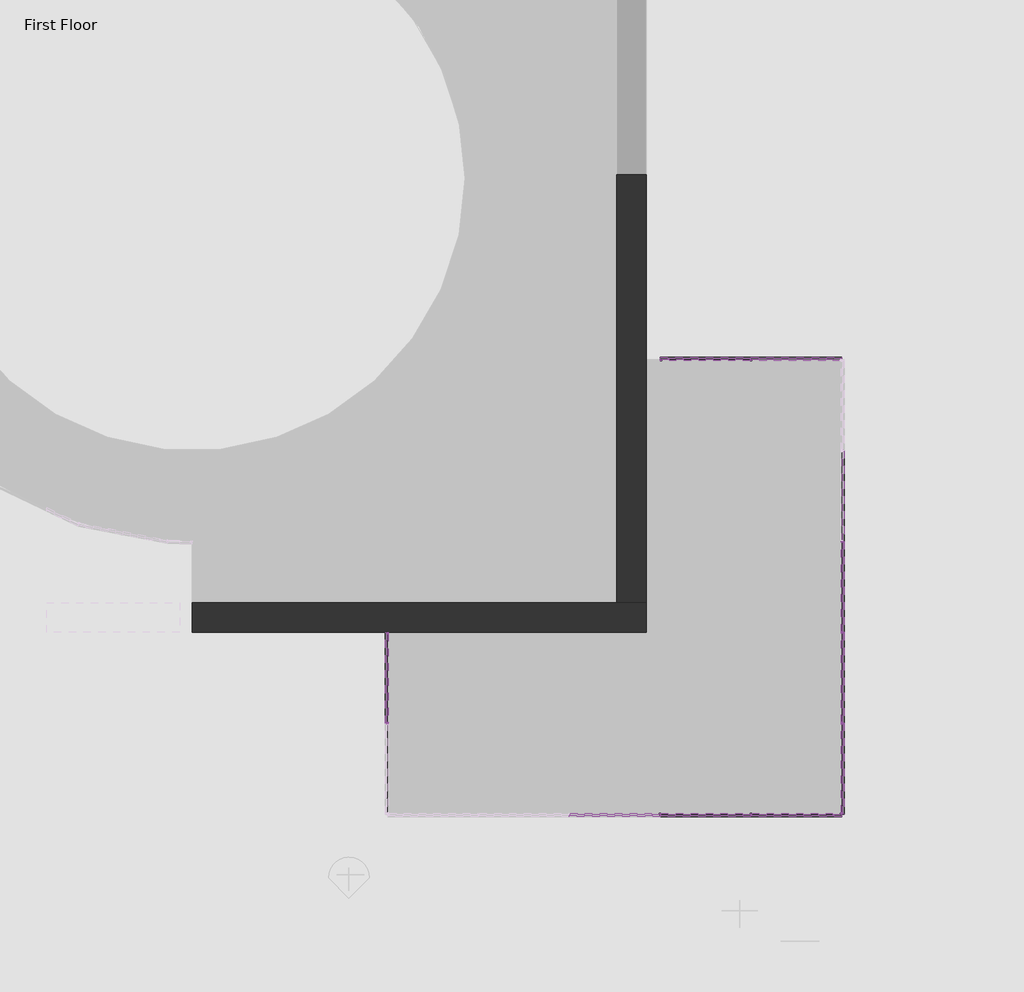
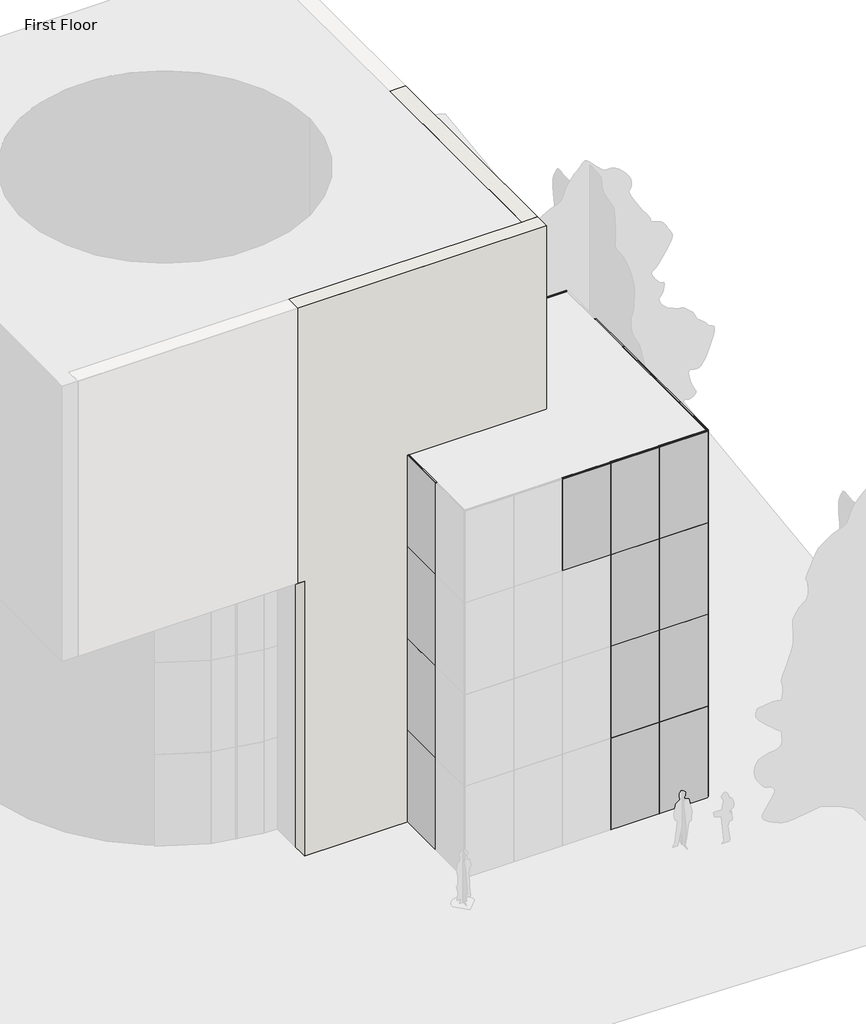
# One storey, part 2 of 4: 93 members, 37 plates, 2 walls.
"""IFC4 building model written with IfcOpenShell, lengths in millimetres."""

from ifc_helpers import new_model, si_unit, origin, origin_with_axes, place, context, project, spatial, polyline, outline, extrude, faceted_brep, transform, mapped, element, save
from components import member_6604d1e0, member_9fd3d903, member_5e617a80, member_cbdb9076, member_74941792, member_7e523723, system_panel_glazed_9c75bc08

model = new_model("IFC4")

# Units and contexts
model_context = context("Model", 3, world=origin())
ifc_project = project(units=[si_unit("LENGTHUNIT", "METRE", prefix="MILLI")], contexts=[model_context])

# Site, building, storey
site = spatial("IfcSite", under=ifc_project)
building = spatial("IfcBuilding", under=site)
storey = spatial("IfcBuildingStorey", under=building, Name="First Floor", Elevation=0.0)

# Members
placement = place(None, origin())
member_shape = member_6604d1e0(model_context)
element("IfcMember", 1, ObjectType="Rectangular Mullion : 1\" Square", at=placement, inside=storey, context=model_context, shape_type="MappedRepresentation", body=[
    mapped(member_shape, transform((5168.1240488, -13277.6534489, 0.0), x_axis=(0.0, 0.0, -1.0), y_axis=(0.0, -1.0, 0.0), z_axis=(-1.0, 0.0, 0.0))),
])
element("IfcMember", 2, ObjectType="Rectangular Mullion : 1\" Square", at=placement, inside=storey, context=model_context, shape_type="MappedRepresentation", body=[
    mapped(member_shape, transform((8203.4240488, -10216.9534489, 0.0), x_axis=(0.0, 0.0, -1.0), y_axis=(1.0, 0.0, 0.0), z_axis=(0.0, -1.0, 0.0))),
])
element("IfcMember", 3, ObjectType="Rectangular Mullion : 1\" Square", at=placement, inside=storey, context=model_context, shape_type="MappedRepresentation", body=[
    mapped(member_shape, transform((8203.4240488, -11740.9534489, 0.0), x_axis=(0.0, 0.0, -1.0), y_axis=(1.0, 0.0, 0.0), z_axis=(0.0, -1.0, 0.0))),
])
element("IfcMember", 4, ObjectType="Rectangular Mullion : 1\" Square", at=placement, inside=storey, context=model_context, shape_type="MappedRepresentation", body=[
    mapped(member_shape, transform((8203.4240488, -8692.9534489, 0.0), x_axis=(0.0, 0.0, -1.0), y_axis=(1.0, 0.0, 0.0), z_axis=(0.0, -1.0, 0.0))),
])
member_2_shape = member_9fd3d903(model_context)
element("IfcMember", 5, ObjectType="Rectangular Mullion : 1\" Square", at=placement, inside=storey, context=model_context, shape_type="MappedRepresentation", body=[
    mapped(member_2_shape, transform((5142.7240488, -13277.6534489, 9144.0), x_axis=(0.0, 0.0, 1.0), y_axis=(0.0, -1.0, 0.0), z_axis=(1.0, 0.0, 0.0))),
])
element("IfcMember", 6, ObjectType="Rectangular Mullion : 1\" Square", at=placement, inside=storey, context=model_context, shape_type="MappedRepresentation", body=[
    mapped(member_2_shape, transform((6666.7240488, -13277.6534489, 9144.0), x_axis=(0.0, 0.0, 1.0), y_axis=(0.0, -1.0, 0.0), z_axis=(1.0, 0.0, 0.0))),
])
element("IfcMember", 7, ObjectType="Rectangular Mullion : 1\" Square", at=placement, inside=storey, context=model_context, shape_type="MappedRepresentation", body=[
    mapped(member_2_shape, transform((6666.7240488, -13277.6534489, 6096.0), x_axis=(0.0, 0.0, 1.0), y_axis=(0.0, -1.0, 0.0), z_axis=(1.0, 0.0, 0.0))),
])
element("IfcMember", 8, ObjectType="Rectangular Mullion : 1\" Square", at=placement, inside=storey, context=model_context, shape_type="MappedRepresentation", body=[
    mapped(member_2_shape, transform((5142.7240488, -13277.6534489, 6096.0), x_axis=(0.0, 0.0, 1.0), y_axis=(0.0, -1.0, 0.0), z_axis=(1.0, 0.0, 0.0))),
])
element("IfcMember", 9, ObjectType="Rectangular Mullion : 1\" Square", at=placement, inside=storey, context=model_context, shape_type="MappedRepresentation", body=[
    mapped(member_2_shape, transform((6666.7240488, -13277.6534489, 3048.0), x_axis=(0.0, 0.0, 1.0), y_axis=(0.0, -1.0, 0.0), z_axis=(1.0, 0.0, 0.0))),
])
element("IfcMember", 10, ObjectType="Rectangular Mullion : 1\" Square", at=placement, inside=storey, context=model_context, shape_type="MappedRepresentation", body=[
    mapped(member_2_shape, transform((5142.7240488, -13277.6534489, 3048.0), x_axis=(0.0, 0.0, 1.0), y_axis=(0.0, -1.0, 0.0), z_axis=(1.0, 0.0, 0.0))),
])
element("IfcMember", 11, ObjectType="Rectangular Mullion : 1\" Square", at=placement, inside=storey, context=model_context, shape_type="MappedRepresentation", body=[
    mapped(member_2_shape, transform((8203.4240488, -8718.3534489, 6096.0), x_axis=(0.0, 0.0, 1.0), y_axis=(1.0, 0.0, 0.0), z_axis=(0.0, 1.0, 0.0))),
])
element("IfcMember", 12, ObjectType="Rectangular Mullion : 1\" Square", at=placement, inside=storey, context=model_context, shape_type="MappedRepresentation", body=[
    mapped(member_2_shape, transform((8203.4240488, -7194.3534489, 6096.0), x_axis=(0.0, 0.0, 1.0), y_axis=(1.0, 0.0, 0.0), z_axis=(0.0, 1.0, 0.0))),
])
element("IfcMember", 13, ObjectType="Rectangular Mullion : 1\" Square", at=placement, inside=storey, context=model_context, shape_type="MappedRepresentation", body=[
    mapped(member_2_shape, transform((8203.4240488, -10242.3534489, 9144.0), x_axis=(0.0, 0.0, 1.0), y_axis=(1.0, 0.0, 0.0), z_axis=(0.0, 1.0, 0.0))),
])
element("IfcMember", 14, ObjectType="Rectangular Mullion : 1\" Square", at=placement, inside=storey, context=model_context, shape_type="MappedRepresentation", body=[
    mapped(member_2_shape, transform((8203.4240488, -7194.3534489, 9144.0), x_axis=(0.0, 0.0, 1.0), y_axis=(1.0, 0.0, 0.0), z_axis=(0.0, 1.0, 0.0))),
])
element("IfcMember", 15, ObjectType="Rectangular Mullion : 1\" Square", at=placement, inside=storey, context=model_context, shape_type="MappedRepresentation", body=[
    mapped(member_2_shape, transform((8203.4240488, -8718.3534489, 9144.0), x_axis=(0.0, 0.0, 1.0), y_axis=(1.0, 0.0, 0.0), z_axis=(0.0, 1.0, 0.0))),
])
element("IfcMember", 16, ObjectType="Rectangular Mullion : 1\" Square", at=placement, inside=storey, context=model_context, shape_type="MappedRepresentation", body=[
    mapped(member_2_shape, transform((8203.4240488, -10242.3534489, 6096.0), x_axis=(0.0, 0.0, 1.0), y_axis=(1.0, 0.0, 0.0), z_axis=(0.0, 1.0, 0.0))),
])
element("IfcMember", 17, ObjectType="Rectangular Mullion : 1\" Square", at=placement, inside=storey, context=model_context, shape_type="MappedRepresentation", body=[
    mapped(member_2_shape, transform((8203.4240488, -10242.3534489, 3048.0), x_axis=(0.0, 0.0, 1.0), y_axis=(1.0, 0.0, 0.0), z_axis=(0.0, 1.0, 0.0))),
])
element("IfcMember", 18, ObjectType="Rectangular Mullion : 1\" Square", at=placement, inside=storey, context=model_context, shape_type="MappedRepresentation", body=[
    mapped(member_2_shape, transform((8203.4240488, -8718.3534489, 3048.0), x_axis=(0.0, 0.0, 1.0), y_axis=(1.0, 0.0, 0.0), z_axis=(0.0, 1.0, 0.0))),
])
member_3_shape = member_5e617a80(model_context)
element("IfcMember", 19, ObjectType="Rectangular Mullion : 1\" Square", at=placement, inside=storey, context=model_context, shape_type="MappedRepresentation", body=[
    mapped(member_3_shape, transform((8178.0240488, -13277.6534489, 9144.0), x_axis=(0.0, 0.0, 1.0), y_axis=(0.0, -1.0, 0.0), z_axis=(1.0, 0.0, 0.0))),
])
element("IfcMember", 20, ObjectType="Rectangular Mullion : 1\" Square", at=placement, inside=storey, context=model_context, shape_type="MappedRepresentation", body=[
    mapped(member_3_shape, transform((8178.0240488, -13277.6534489, 6096.0), x_axis=(0.0, 0.0, 1.0), y_axis=(0.0, -1.0, 0.0), z_axis=(1.0, 0.0, 0.0))),
])
element("IfcMember", 21, ObjectType="Rectangular Mullion : 1\" Square", at=placement, inside=storey, context=model_context, shape_type="MappedRepresentation", body=[
    mapped(member_3_shape, transform((8178.0240488, -13277.6534489, 3048.0), x_axis=(0.0, 0.0, 1.0), y_axis=(0.0, -1.0, 0.0), z_axis=(1.0, 0.0, 0.0))),
])
element("IfcMember", 22, ObjectType="Rectangular Mullion : 1\" Square", at=placement, inside=storey, context=model_context, shape_type="MappedRepresentation", body=[
    mapped(member_3_shape, transform((583.4240488, -11740.9534489, 9144.0), x_axis=(0.0, 0.0, 1.0), y_axis=(-1.0, 0.0, 0.0), z_axis=(0.0, -1.0, 0.0))),
])
element("IfcMember", 23, ObjectType="Rectangular Mullion : 1\" Square", at=placement, inside=storey, context=model_context, shape_type="MappedRepresentation", body=[
    mapped(member_3_shape, transform((583.4240488, -11740.9534489, 6096.0), x_axis=(0.0, 0.0, 1.0), y_axis=(-1.0, 0.0, 0.0), z_axis=(0.0, -1.0, 0.0))),
])
element("IfcMember", 24, ObjectType="Rectangular Mullion : 1\" Square", at=placement, inside=storey, context=model_context, shape_type="MappedRepresentation", body=[
    mapped(member_3_shape, transform((583.4240488, -11740.9534489, 3048.0), x_axis=(0.0, 0.0, 1.0), y_axis=(-1.0, 0.0, 0.0), z_axis=(0.0, -1.0, 0.0))),
])
element("IfcMember", 25, ObjectType="Rectangular Mullion : 1\" Square", at=placement, inside=storey, context=model_context, shape_type="MappedRepresentation", body=[
    mapped(member_3_shape, transform((8203.4240488, -11766.3534489, 9144.0), x_axis=(0.0, 0.0, 1.0), y_axis=(1.0, 0.0, 0.0), z_axis=(0.0, 1.0, 0.0))),
])
element("IfcMember", 26, ObjectType="Rectangular Mullion : 1\" Square", at=placement, inside=storey, context=model_context, shape_type="MappedRepresentation", body=[
    mapped(member_3_shape, transform((8203.4240488, -11766.3534489, 6096.0), x_axis=(0.0, 0.0, 1.0), y_axis=(1.0, 0.0, 0.0), z_axis=(0.0, 1.0, 0.0))),
])
element("IfcMember", 27, ObjectType="Rectangular Mullion : 1\" Square", at=placement, inside=storey, context=model_context, shape_type="MappedRepresentation", body=[
    mapped(member_3_shape, transform((8203.4240488, -11766.3534489, 3048.0), x_axis=(0.0, 0.0, 1.0), y_axis=(1.0, 0.0, 0.0), z_axis=(0.0, 1.0, 0.0))),
])
element("IfcMember", 28, ObjectType="Rectangular Mullion : 1\" Square", at=placement, inside=storey, context=model_context, shape_type="MappedRepresentation", body=[
    mapped(member_3_shape, transform((6692.1240488, -5657.6534489, 6096.0), x_axis=(0.0, 0.0, 1.0), y_axis=(0.0, 1.0, 0.0), z_axis=(-1.0, 0.0, 0.0))),
])
element("IfcMember", 29, ObjectType="Rectangular Mullion : 1\" Square", at=placement, inside=storey, context=model_context, shape_type="MappedRepresentation", body=[
    mapped(member_3_shape, transform((5180.8240488, -5657.6534489, 9144.0), x_axis=(0.0, 0.0, 1.0), y_axis=(0.0, 1.0, 0.0), z_axis=(-1.0, 0.0, 0.0))),
])
element("IfcMember", 30, ObjectType="Rectangular Mullion : 1\" Square", at=placement, inside=storey, context=model_context, shape_type="MappedRepresentation", body=[
    mapped(member_3_shape, transform((6692.1240488, -5657.6534489, 9144.0), x_axis=(0.0, 0.0, 1.0), y_axis=(0.0, 1.0, 0.0), z_axis=(-1.0, 0.0, 0.0))),
])
element("IfcMember", 31, ObjectType="Rectangular Mullion : 1\" Square", at=placement, inside=storey, context=model_context, shape_type="MappedRepresentation", body=[
    mapped(member_3_shape, transform((5180.8240488, -5657.6534489, 3048.0), x_axis=(0.0, 0.0, 1.0), y_axis=(0.0, 1.0, 0.0), z_axis=(-1.0, 0.0, 0.0))),
])
element("IfcMember", 32, ObjectType="Rectangular Mullion : 1\" Square", at=placement, inside=storey, context=model_context, shape_type="MappedRepresentation", body=[
    mapped(member_3_shape, transform((6692.1240488, -5657.6534489, 3048.0), x_axis=(0.0, 0.0, 1.0), y_axis=(0.0, 1.0, 0.0), z_axis=(-1.0, 0.0, 0.0))),
])
element("IfcMember", 33, ObjectType="Rectangular Mullion : 1\" Square", at=placement, inside=storey, context=model_context, shape_type="MappedRepresentation", body=[
    mapped(member_3_shape, transform((5180.8240488, -5657.6534489, 6096.0), x_axis=(0.0, 0.0, 1.0), y_axis=(0.0, 1.0, 0.0), z_axis=(-1.0, 0.0, 0.0))),
])
member_4_shape = member_cbdb9076(model_context)
element("IfcMember", 34, ObjectType="Rectangular Mullion : 1\" Square", at=placement, inside=storey, context=model_context, shape_type="MappedRepresentation", body=[
    mapped(member_4_shape, transform((6679.4240488, -13277.6534489, 9144.0), x_axis=(1.0, 0.0, 0.0), y_axis=(0.0, -1.0, 0.0), z_axis=(0.0, 0.0, -1.0))),
])
element("IfcMember", 35, ObjectType="Rectangular Mullion : 1\" Square", at=placement, inside=storey, context=model_context, shape_type="MappedRepresentation", body=[
    mapped(member_4_shape, transform((5155.4240488, -13277.6534489, 9144.0), x_axis=(1.0, 0.0, 0.0), y_axis=(0.0, -1.0, 0.0), z_axis=(0.0, 0.0, -1.0))),
])
element("IfcMember", 36, ObjectType="Rectangular Mullion : 1\" Square", at=placement, inside=storey, context=model_context, shape_type="MappedRepresentation", body=[
    mapped(member_4_shape, transform((583.4240488, -11753.6534489, 9144.0), x_axis=(0.0, -1.0, 0.0), y_axis=(-1.0, 0.0, 0.0), z_axis=(0.0, 0.0, -1.0))),
])
element("IfcMember", 37, ObjectType="Rectangular Mullion : 1\" Square", at=placement, inside=storey, context=model_context, shape_type="MappedRepresentation", body=[
    mapped(member_4_shape, transform((8203.4240488, -7181.6534489, 9144.0), x_axis=(0.0, 1.0, 0.0), y_axis=(1.0, 0.0, 0.0), z_axis=(0.0, 0.0, -1.0))),
])
element("IfcMember", 38, ObjectType="Rectangular Mullion : 1\" Square", at=placement, inside=storey, context=model_context, shape_type="MappedRepresentation", body=[
    mapped(member_4_shape, transform((8203.4240488, -8705.6534489, 9144.0), x_axis=(0.0, 1.0, 0.0), y_axis=(1.0, 0.0, 0.0), z_axis=(0.0, 0.0, -1.0))),
])
element("IfcMember", 39, ObjectType="Rectangular Mullion : 1\" Square", at=placement, inside=storey, context=model_context, shape_type="MappedRepresentation", body=[
    mapped(member_4_shape, transform((8203.4240488, -10229.6534489, 9144.0), x_axis=(0.0, 1.0, 0.0), y_axis=(1.0, 0.0, 0.0), z_axis=(0.0, 0.0, -1.0))),
])
element("IfcMember", 40, ObjectType="Rectangular Mullion : 1\" Square", at=placement, inside=storey, context=model_context, shape_type="MappedRepresentation", body=[
    mapped(member_4_shape, transform((8203.4240488, -11753.6534489, 9144.0), x_axis=(0.0, 1.0, 0.0), y_axis=(1.0, 0.0, 0.0), z_axis=(0.0, 0.0, -1.0))),
])
element("IfcMember", 41, ObjectType="Rectangular Mullion : 1\" Square", at=placement, inside=storey, context=model_context, shape_type="MappedRepresentation", body=[
    mapped(member_4_shape, transform((6679.4240488, -5657.6534489, 9144.0), x_axis=(-1.0, 0.0, 0.0), y_axis=(0.0, 1.0, 0.0), z_axis=(0.0, 0.0, -1.0))),
])
element("IfcMember", 42, ObjectType="Rectangular Mullion : 1\" Square", at=placement, inside=storey, context=model_context, shape_type="MappedRepresentation", body=[
    mapped(member_4_shape, transform((6679.4240488, -13277.6534489, 6096.0), x_axis=(1.0, 0.0, 0.0), y_axis=(0.0, -1.0, 0.0), z_axis=(0.0, 0.0, -1.0))),
])
element("IfcMember", 43, ObjectType="Rectangular Mullion : 1\" Square", at=placement, inside=storey, context=model_context, shape_type="MappedRepresentation", body=[
    mapped(member_4_shape, transform((6679.4240488, -13277.6534489, 3048.0), x_axis=(1.0, 0.0, 0.0), y_axis=(0.0, -1.0, 0.0), z_axis=(0.0, 0.0, -1.0))),
])
element("IfcMember", 44, ObjectType="Rectangular Mullion : 1\" Square", at=placement, inside=storey, context=model_context, shape_type="MappedRepresentation", body=[
    mapped(member_4_shape, transform((5155.4240488, -13277.6534489, 6096.0), x_axis=(1.0, 0.0, 0.0), y_axis=(0.0, -1.0, 0.0), z_axis=(0.0, 0.0, -1.0))),
])
element("IfcMember", 45, ObjectType="Rectangular Mullion : 1\" Square", at=placement, inside=storey, context=model_context, shape_type="MappedRepresentation", body=[
    mapped(member_4_shape, transform((5155.4240488, -13277.6534489, 3048.0), x_axis=(1.0, 0.0, 0.0), y_axis=(0.0, -1.0, 0.0), z_axis=(0.0, 0.0, -1.0))),
])
element("IfcMember", 46, ObjectType="Rectangular Mullion : 1\" Square", at=placement, inside=storey, context=model_context, shape_type="MappedRepresentation", body=[
    mapped(member_4_shape, transform((583.4240488, -11753.6534489, 6096.0), x_axis=(0.0, -1.0, 0.0), y_axis=(-1.0, 0.0, 0.0), z_axis=(0.0, 0.0, -1.0))),
])
element("IfcMember", 47, ObjectType="Rectangular Mullion : 1\" Square", at=placement, inside=storey, context=model_context, shape_type="MappedRepresentation", body=[
    mapped(member_4_shape, transform((583.4240488, -11753.6534489, 3048.0), x_axis=(0.0, -1.0, 0.0), y_axis=(-1.0, 0.0, 0.0), z_axis=(0.0, 0.0, -1.0))),
])
element("IfcMember", 48, ObjectType="Rectangular Mullion : 1\" Square", at=placement, inside=storey, context=model_context, shape_type="MappedRepresentation", body=[
    mapped(member_4_shape, transform((8203.4240488, -7181.6534489, 6096.0), x_axis=(0.0, 1.0, 0.0), y_axis=(1.0, 0.0, 0.0), z_axis=(0.0, 0.0, -1.0))),
])
element("IfcMember", 49, ObjectType="Rectangular Mullion : 1\" Square", at=placement, inside=storey, context=model_context, shape_type="MappedRepresentation", body=[
    mapped(member_4_shape, transform((8203.4240488, -8705.6534489, 6096.0), x_axis=(0.0, 1.0, 0.0), y_axis=(1.0, 0.0, 0.0), z_axis=(0.0, 0.0, -1.0))),
])
element("IfcMember", 50, ObjectType="Rectangular Mullion : 1\" Square", at=placement, inside=storey, context=model_context, shape_type="MappedRepresentation", body=[
    mapped(member_4_shape, transform((8203.4240488, -8705.6534489, 3048.0), x_axis=(0.0, 1.0, 0.0), y_axis=(1.0, 0.0, 0.0), z_axis=(0.0, 0.0, -1.0))),
])
element("IfcMember", 51, ObjectType="Rectangular Mullion : 1\" Square", at=placement, inside=storey, context=model_context, shape_type="MappedRepresentation", body=[
    mapped(member_4_shape, transform((8203.4240488, -10229.6534489, 6096.0), x_axis=(0.0, 1.0, 0.0), y_axis=(1.0, 0.0, 0.0), z_axis=(0.0, 0.0, -1.0))),
])
element("IfcMember", 52, ObjectType="Rectangular Mullion : 1\" Square", at=placement, inside=storey, context=model_context, shape_type="MappedRepresentation", body=[
    mapped(member_4_shape, transform((8203.4240488, -10229.6534489, 3048.0), x_axis=(0.0, 1.0, 0.0), y_axis=(1.0, 0.0, 0.0), z_axis=(0.0, 0.0, -1.0))),
])
element("IfcMember", 53, ObjectType="Rectangular Mullion : 1\" Square", at=placement, inside=storey, context=model_context, shape_type="MappedRepresentation", body=[
    mapped(member_4_shape, transform((8203.4240488, -11753.6534489, 6096.0), x_axis=(0.0, 1.0, 0.0), y_axis=(1.0, 0.0, 0.0), z_axis=(0.0, 0.0, -1.0))),
])
element("IfcMember", 54, ObjectType="Rectangular Mullion : 1\" Square", at=placement, inside=storey, context=model_context, shape_type="MappedRepresentation", body=[
    mapped(member_4_shape, transform((8203.4240488, -11753.6534489, 3048.0), x_axis=(0.0, 1.0, 0.0), y_axis=(1.0, 0.0, 0.0), z_axis=(0.0, 0.0, -1.0))),
])
element("IfcMember", 55, ObjectType="Rectangular Mullion : 1\" Square", at=placement, inside=storey, context=model_context, shape_type="MappedRepresentation", body=[
    mapped(member_4_shape, transform((6679.4240488, -5657.6534489, 3048.0), x_axis=(-1.0, 0.0, 0.0), y_axis=(0.0, 1.0, 0.0), z_axis=(0.0, 0.0, -1.0))),
])
element("IfcMember", 56, ObjectType="Rectangular Mullion : 1\" Square", at=placement, inside=storey, context=model_context, shape_type="MappedRepresentation", body=[
    mapped(member_4_shape, transform((6679.4240488, -5657.6534489, 6096.0), x_axis=(-1.0, 0.0, 0.0), y_axis=(0.0, 1.0, 0.0), z_axis=(0.0, 0.0, -1.0))),
])
element("IfcMember", 57, ObjectType="Rectangular Mullion : 1\" Square", at=placement, inside=storey, context=model_context, shape_type="MappedRepresentation", body=[
    mapped(member_shape, transform((5142.7240488, -13277.6534489, 12192.0), x_axis=(0.0, 0.0, 1.0), y_axis=(0.0, -1.0, 0.0), z_axis=(1.0, 0.0, 0.0))),
])
element("IfcMember", 58, ObjectType="Rectangular Mullion : 1\" Square", at=placement, inside=storey, context=model_context, shape_type="MappedRepresentation", body=[
    mapped(member_shape, transform((6666.7240488, -13277.6534489, 12192.0), x_axis=(0.0, 0.0, 1.0), y_axis=(0.0, -1.0, 0.0), z_axis=(1.0, 0.0, 0.0))),
])
element("IfcMember", 59, ObjectType="Rectangular Mullion : 1\" Square", at=placement, inside=storey, context=model_context, shape_type="MappedRepresentation", body=[
    mapped(member_shape, transform((8203.4240488, -10242.3534489, 12192.0), x_axis=(0.0, 0.0, 1.0), y_axis=(1.0, 0.0, 0.0), z_axis=(0.0, 1.0, 0.0))),
])
element("IfcMember", 60, ObjectType="Rectangular Mullion : 1\" Square", at=placement, inside=storey, context=model_context, shape_type="MappedRepresentation", body=[
    mapped(member_shape, transform((8203.4240488, -8718.3534489, 12192.0), x_axis=(0.0, 0.0, 1.0), y_axis=(1.0, 0.0, 0.0), z_axis=(0.0, 1.0, 0.0))),
])
member_5_shape = member_74941792(model_context)
element("IfcMember", 61, ObjectType="Rectangular Mullion : 1\" Square", at=placement, inside=storey, context=model_context, shape_type="MappedRepresentation", body=[
    mapped(member_5_shape, transform((6692.1240488, -13277.6534489, 0.0), x_axis=(0.0, 0.0, -1.0), y_axis=(0.0, -1.0, 0.0), z_axis=(-1.0, 0.0, 0.0))),
])
element("IfcMember", 62, ObjectType="Rectangular Mullion : 1\" Square", at=placement, inside=storey, context=model_context, shape_type="MappedRepresentation", body=[
    mapped(member_5_shape, transform((583.4240488, -10255.0534489, 0.0), x_axis=(0.0, 0.0, -1.0), y_axis=(-1.0, 0.0, 0.0), z_axis=(0.0, 1.0, 0.0))),
])
element("IfcMember", 63, ObjectType="Rectangular Mullion : 1\" Square", at=placement, inside=storey, context=model_context, shape_type="MappedRepresentation", body=[
    mapped(member_5_shape, transform((583.4240488, -11766.3534489, 0.0), x_axis=(0.0, 0.0, -1.0), y_axis=(-1.0, 0.0, 0.0), z_axis=(0.0, 1.0, 0.0))),
])
element("IfcMember", 64, ObjectType="Rectangular Mullion : 1\" Square", at=placement, inside=storey, context=model_context, shape_type="MappedRepresentation", body=[
    mapped(member_5_shape, transform((8203.4240488, -13252.2534489, 0.0), x_axis=(0.0, 0.0, -1.0), y_axis=(1.0, 0.0, 0.0), z_axis=(0.0, -1.0, 0.0))),
])
element("IfcMember", 65, ObjectType="Rectangular Mullion : 1\" Square", at=placement, inside=storey, context=model_context, shape_type="MappedRepresentation", body=[
    mapped(member_5_shape, transform((6666.7240488, -5657.6534489, 0.0), x_axis=(0.0, 0.0, -1.0), y_axis=(0.0, 1.0, 0.0), z_axis=(1.0, 0.0, 0.0))),
])
element("IfcMember", 66, ObjectType="Rectangular Mullion : 1\" Square", at=placement, inside=storey, context=model_context, shape_type="MappedRepresentation", body=[
    mapped(member_5_shape, transform((8178.0240488, -13277.6534489, 12192.0), x_axis=(0.0, 0.0, 1.0), y_axis=(0.0, -1.0, 0.0), z_axis=(1.0, 0.0, 0.0))),
])
element("IfcMember", 67, ObjectType="Rectangular Mullion : 1\" Square", at=placement, inside=storey, context=model_context, shape_type="MappedRepresentation", body=[
    mapped(member_5_shape, transform((583.4240488, -11740.9534489, 12192.0), x_axis=(0.0, 0.0, 1.0), y_axis=(-1.0, 0.0, 0.0), z_axis=(0.0, -1.0, 0.0))),
])
element("IfcMember", 68, ObjectType="Rectangular Mullion : 1\" Square", at=placement, inside=storey, context=model_context, shape_type="MappedRepresentation", body=[
    mapped(member_5_shape, transform((8203.4240488, -11766.3534489, 12192.0), x_axis=(0.0, 0.0, 1.0), y_axis=(1.0, 0.0, 0.0), z_axis=(0.0, 1.0, 0.0))),
])
element("IfcMember", 69, ObjectType="Rectangular Mullion : 1\" Square", at=placement, inside=storey, context=model_context, shape_type="MappedRepresentation", body=[
    mapped(member_5_shape, transform((6692.1240488, -5657.6534489, 12192.0), x_axis=(0.0, 0.0, 1.0), y_axis=(0.0, 1.0, 0.0), z_axis=(-1.0, 0.0, 0.0))),
])
element("IfcMember", 70, ObjectType="Rectangular Mullion : 1\" Square", at=placement, inside=storey, context=model_context, shape_type="MappedRepresentation", body=[
    mapped(member_5_shape, transform((5180.8240488, -5657.6534489, 12192.0), x_axis=(0.0, 0.0, 1.0), y_axis=(0.0, 1.0, 0.0), z_axis=(-1.0, 0.0, 0.0))),
])
element("IfcMember", 71, ObjectType="Rectangular Mullion : 1\" Square", at=placement, inside=storey, context=model_context, shape_type="MappedRepresentation", body=[
    mapped(member_4_shape, transform((5155.4240488, -13277.6534489, 0.0), x_axis=(1.0, 0.0, 0.0), y_axis=(0.0, -1.0, 0.0), z_axis=(0.0, 0.0, -1.0))),
])
element("IfcMember", 72, ObjectType="Rectangular Mullion : 1\" Square", at=placement, inside=storey, context=model_context, shape_type="MappedRepresentation", body=[
    mapped(member_4_shape, transform((6679.4240488, -13277.6534489, 0.0), x_axis=(1.0, 0.0, 0.0), y_axis=(0.0, -1.0, 0.0), z_axis=(0.0, 0.0, -1.0))),
])
element("IfcMember", 73, ObjectType="Rectangular Mullion : 1\" Square", at=placement, inside=storey, context=model_context, shape_type="MappedRepresentation", body=[
    mapped(member_4_shape, transform((583.4240488, -11753.6534489, 0.0), x_axis=(0.0, -1.0, 0.0), y_axis=(-1.0, 0.0, 0.0), z_axis=(0.0, 0.0, -1.0))),
])
element("IfcMember", 74, ObjectType="Rectangular Mullion : 1\" Square", at=placement, inside=storey, context=model_context, shape_type="MappedRepresentation", body=[
    mapped(member_4_shape, transform((8203.4240488, -10229.6534489, 0.0), x_axis=(0.0, 1.0, 0.0), y_axis=(1.0, 0.0, 0.0), z_axis=(0.0, 0.0, -1.0))),
])
element("IfcMember", 75, ObjectType="Rectangular Mullion : 1\" Square", at=placement, inside=storey, context=model_context, shape_type="MappedRepresentation", body=[
    mapped(member_4_shape, transform((8203.4240488, -11753.6534489, 0.0), x_axis=(0.0, 1.0, 0.0), y_axis=(1.0, 0.0, 0.0), z_axis=(0.0, 0.0, -1.0))),
])
element("IfcMember", 76, ObjectType="Rectangular Mullion : 1\" Square", at=placement, inside=storey, context=model_context, shape_type="MappedRepresentation", body=[
    mapped(member_4_shape, transform((8203.4240488, -8705.6534489, 0.0), x_axis=(0.0, 1.0, 0.0), y_axis=(1.0, 0.0, 0.0), z_axis=(0.0, 0.0, -1.0))),
])
element("IfcMember", 77, ObjectType="Rectangular Mullion : 1\" Square", at=placement, inside=storey, context=model_context, shape_type="MappedRepresentation", body=[
    mapped(member_4_shape, transform((6679.4240488, -5657.6534489, 0.0), x_axis=(-1.0, 0.0, 0.0), y_axis=(0.0, 1.0, 0.0), z_axis=(0.0, 0.0, -1.0))),
])
member_6_shape = member_7e523723(model_context)
element("IfcMember", 78, ObjectType="Rectangular Mullion : 1\" Square", at=placement, inside=storey, context=model_context, shape_type="MappedRepresentation", body=[
    mapped(member_6_shape, transform((583.4240488, -10229.6534489, 6096.0), x_axis=(0.0, 1.0, 0.0), y_axis=(-1.0, 0.0, 0.0), z_axis=(0.0, 0.0, 1.0))),
])
element("IfcMember", 79, ObjectType="Rectangular Mullion : 1\" Square", at=placement, inside=storey, context=model_context, shape_type="MappedRepresentation", body=[
    mapped(member_6_shape, transform((583.4240488, -10229.6534489, 9144.0), x_axis=(0.0, 1.0, 0.0), y_axis=(-1.0, 0.0, 0.0), z_axis=(0.0, 0.0, 1.0))),
])
element("IfcMember", 80, ObjectType="Rectangular Mullion : 1\" Square", at=placement, inside=storey, context=model_context, shape_type="MappedRepresentation", body=[
    mapped(member_6_shape, transform((8203.4240488, -13277.6534489, 9144.0), x_axis=(0.0, -1.0, 0.0), y_axis=(1.0, 0.0, 0.0), z_axis=(0.0, 0.0, 1.0))),
])
element("IfcMember", 81, ObjectType="Rectangular Mullion : 1\" Square", at=placement, inside=storey, context=model_context, shape_type="MappedRepresentation", body=[
    mapped(member_6_shape, transform((8203.4240488, -13277.6534489, 6096.0), x_axis=(0.0, -1.0, 0.0), y_axis=(1.0, 0.0, 0.0), z_axis=(0.0, 0.0, 1.0))),
])
element("IfcMember", 82, ObjectType="Rectangular Mullion : 1\" Square", at=placement, inside=storey, context=model_context, shape_type="MappedRepresentation", body=[
    mapped(member_6_shape, transform((583.4240488, -10229.6534489, 3048.0), x_axis=(0.0, 1.0, 0.0), y_axis=(-1.0, 0.0, 0.0), z_axis=(0.0, 0.0, 1.0))),
])
element("IfcMember", 83, ObjectType="Rectangular Mullion : 1\" Square", at=placement, inside=storey, context=model_context, shape_type="MappedRepresentation", body=[
    mapped(member_6_shape, transform((8203.4240488, -13277.6534489, 3048.0), x_axis=(0.0, -1.0, 0.0), y_axis=(1.0, 0.0, 0.0), z_axis=(0.0, 0.0, 1.0))),
])
element("IfcMember", 84, ObjectType="Rectangular Mullion : 1\" Square", at=placement, inside=storey, context=model_context, shape_type="MappedRepresentation", body=[
    mapped(member_6_shape, transform((8203.4240488, -13277.6534489, 6096.0), x_axis=(1.0, 0.0, 0.0), y_axis=(0.0, -1.0, 0.0), z_axis=(0.0, 0.0, -1.0))),
])
element("IfcMember", 85, ObjectType="Rectangular Mullion : 1\" Square", at=placement, inside=storey, context=model_context, shape_type="MappedRepresentation", body=[
    mapped(member_6_shape, transform((8203.4240488, -13277.6534489, 3048.0), x_axis=(1.0, 0.0, 0.0), y_axis=(0.0, -1.0, 0.0), z_axis=(0.0, 0.0, -1.0))),
])
element("IfcMember", 86, ObjectType="Rectangular Mullion : 1\" Square", at=placement, inside=storey, context=model_context, shape_type="MappedRepresentation", body=[
    mapped(member_6_shape, transform((5155.4240488, -5657.6534489, 6096.0), x_axis=(-1.0, 0.0, 0.0), y_axis=(0.0, 1.0, 0.0), z_axis=(0.0, 0.0, -1.0))),
])
element("IfcMember", 87, ObjectType="Rectangular Mullion : 1\" Square", at=placement, inside=storey, context=model_context, shape_type="MappedRepresentation", body=[
    mapped(member_6_shape, transform((5155.4240488, -5657.6534489, 3048.0), x_axis=(-1.0, 0.0, 0.0), y_axis=(0.0, 1.0, 0.0), z_axis=(0.0, 0.0, -1.0))),
])
element("IfcMember", 88, ObjectType="Rectangular Mullion : 1\" Square", at=placement, inside=storey, context=model_context, shape_type="MappedRepresentation", body=[
    mapped(member_6_shape, transform((8203.4240488, -13277.6534489, 9144.0), x_axis=(1.0, 0.0, 0.0), y_axis=(0.0, -1.0, 0.0), z_axis=(0.0, 0.0, -1.0))),
])
element("IfcMember", 89, ObjectType="Rectangular Mullion : 1\" Square", at=placement, inside=storey, context=model_context, shape_type="MappedRepresentation", body=[
    mapped(member_6_shape, transform((5155.4240488, -5657.6534489, 9144.0), x_axis=(-1.0, 0.0, 0.0), y_axis=(0.0, 1.0, 0.0), z_axis=(0.0, 0.0, -1.0))),
])
element("IfcMember", 90, ObjectType="Rectangular Mullion : 1\" Square", at=placement, inside=storey, context=model_context, shape_type="MappedRepresentation", body=[
    mapped(member_6_shape, transform((8203.4240488, -13277.6534489, 0.0), x_axis=(1.0, 0.0, 0.0), y_axis=(0.0, -1.0, 0.0), z_axis=(0.0, 0.0, -1.0))),
])
element("IfcMember", 91, ObjectType="Rectangular Mullion : 1\" Square", at=placement, inside=storey, context=model_context, shape_type="MappedRepresentation", body=[
    mapped(member_6_shape, transform((5155.4240488, -5657.6534489, 0.0), x_axis=(-1.0, 0.0, 0.0), y_axis=(0.0, 1.0, 0.0), z_axis=(0.0, 0.0, -1.0))),
])
element("IfcMember", 92, ObjectType="Rectangular Mullion : 1\" Square", at=placement, inside=storey, context=model_context, shape_type="MappedRepresentation", body=[
    mapped(member_6_shape, transform((583.4240488, -10229.6534489, 12192.0), x_axis=(0.0, 1.0, 0.0), y_axis=(-1.0, 0.0, 0.0), z_axis=(0.0, 0.0, 1.0))),
])
element("IfcMember", 93, ObjectType="Rectangular Mullion : 1\" Square", at=placement, inside=storey, context=model_context, shape_type="MappedRepresentation", body=[
    mapped(member_6_shape, transform((8203.4240488, -13277.6534489, 12192.0), x_axis=(0.0, -1.0, 0.0), y_axis=(1.0, 0.0, 0.0), z_axis=(0.0, 0.0, 1.0))),
])

# Plates
system_panel_glazed_shape = system_panel_glazed_9c75bc08(model_context)
element("IfcPlate", 94, ObjectType="System Panel : Glazed", at=placement, inside=storey, context=model_context, shape_type="MappedRepresentation", body=[
    mapped(system_panel_glazed_shape, transform((7441.4240488, -5657.6534489, 0.0), x_axis=(-1.0, 0.0, 0.0), y_axis=(0.0, -1.0, 0.0), z_axis=(0.0, 0.0, 1.0))),
])
element("IfcPlate", 95, ObjectType="System Panel : Glazed", at=placement, inside=storey, context=model_context, shape_type="MappedRepresentation", body=[
    mapped(system_panel_glazed_shape, transform((5917.4240488, -5657.6534489, 0.0), x_axis=(-1.0, 0.0, 0.0), y_axis=(0.0, -1.0, 0.0), z_axis=(0.0, 0.0, 1.0))),
])
element("IfcPlate", 96, ObjectType="System Panel : Glazed", at=placement, inside=storey, context=model_context, shape_type="MappedRepresentation", body=[
    mapped(system_panel_glazed_shape, transform((7441.4240488, -5657.6534489, 3048.0), x_axis=(-1.0, 0.0, 0.0), y_axis=(0.0, -1.0, 0.0), z_axis=(0.0, 0.0, 1.0))),
])
element("IfcPlate", 97, ObjectType="System Panel : Glazed", at=placement, inside=storey, context=model_context, shape_type="MappedRepresentation", body=[
    mapped(system_panel_glazed_shape, transform((5917.4240488, -5657.6534489, 3048.0), x_axis=(-1.0, 0.0, 0.0), y_axis=(0.0, -1.0, 0.0), z_axis=(0.0, 0.0, 1.0))),
])
element("IfcPlate", 98, ObjectType="System Panel : Glazed", at=placement, inside=storey, context=model_context, shape_type="MappedRepresentation", body=[
    mapped(system_panel_glazed_shape, transform((7441.4240488, -5657.6534489, 6096.0), x_axis=(-1.0, 0.0, 0.0), y_axis=(0.0, -1.0, 0.0), z_axis=(0.0, 0.0, 1.0))),
])
element("IfcPlate", 99, ObjectType="System Panel : Glazed", at=placement, inside=storey, context=model_context, shape_type="MappedRepresentation", body=[
    mapped(system_panel_glazed_shape, transform((5917.4240488, -5657.6534489, 6096.0), x_axis=(-1.0, 0.0, 0.0), y_axis=(0.0, -1.0, 0.0), z_axis=(0.0, 0.0, 1.0))),
])
element("IfcPlate", 100, ObjectType="System Panel : Glazed", at=placement, inside=storey, context=model_context, shape_type="MappedRepresentation", body=[
    mapped(system_panel_glazed_shape, transform((7441.4240488, -5657.6534489, 9144.0), x_axis=(-1.0, 0.0, 0.0), y_axis=(0.0, -1.0, 0.0), z_axis=(0.0, 0.0, 1.0))),
])
element("IfcPlate", 101, ObjectType="System Panel : Glazed", at=placement, inside=storey, context=model_context, shape_type="MappedRepresentation", body=[
    mapped(system_panel_glazed_shape, transform((5917.4240488, -5657.6534489, 9144.0), x_axis=(-1.0, 0.0, 0.0), y_axis=(0.0, -1.0, 0.0), z_axis=(0.0, 0.0, 1.0))),
])
element("IfcPlate", 102, ObjectType="System Panel : Glazed", at=placement, inside=storey, context=model_context, shape_type="MappedRepresentation", body=[
    mapped(system_panel_glazed_shape, transform((8203.4240488, -12515.6534489, 0.0), x_axis=(0.0, 1.0, 0.0), y_axis=(-1.0, 0.0, 0.0), z_axis=(0.0, 0.0, 1.0))),
])
element("IfcPlate", 103, ObjectType="System Panel : Glazed", at=placement, inside=storey, context=model_context, shape_type="MappedRepresentation", body=[
    mapped(system_panel_glazed_shape, transform((8203.4240488, -10991.6534489, 0.0), x_axis=(0.0, 1.0, 0.0), y_axis=(-1.0, 0.0, 0.0), z_axis=(0.0, 0.0, 1.0))),
])
element("IfcPlate", 104, ObjectType="System Panel : Glazed", at=placement, inside=storey, context=model_context, shape_type="MappedRepresentation", body=[
    mapped(system_panel_glazed_shape, transform((8203.4240488, -9467.6534489, 0.0), x_axis=(0.0, 1.0, 0.0), y_axis=(-1.0, 0.0, 0.0), z_axis=(0.0, 0.0, 1.0))),
])
element("IfcPlate", 105, ObjectType="System Panel : Glazed", at=placement, inside=storey, context=model_context, shape_type="MappedRepresentation", body=[
    mapped(system_panel_glazed_shape, transform((8203.4240488, -7943.6534489, 0.0), x_axis=(0.0, 1.0, 0.0), y_axis=(-1.0, 0.0, 0.0), z_axis=(0.0, 0.0, 1.0))),
])
element("IfcPlate", 106, ObjectType="System Panel : Glazed", at=placement, inside=storey, context=model_context, shape_type="MappedRepresentation", body=[
    mapped(system_panel_glazed_shape, transform((8203.4240488, -12515.6534489, 3048.0), x_axis=(0.0, 1.0, 0.0), y_axis=(-1.0, 0.0, 0.0), z_axis=(0.0, 0.0, 1.0))),
])
element("IfcPlate", 107, ObjectType="System Panel : Glazed", at=placement, inside=storey, context=model_context, shape_type="MappedRepresentation", body=[
    mapped(system_panel_glazed_shape, transform((8203.4240488, -10991.6534489, 3048.0), x_axis=(0.0, 1.0, 0.0), y_axis=(-1.0, 0.0, 0.0), z_axis=(0.0, 0.0, 1.0))),
])
element("IfcPlate", 108, ObjectType="System Panel : Glazed", at=placement, inside=storey, context=model_context, shape_type="MappedRepresentation", body=[
    mapped(system_panel_glazed_shape, transform((8203.4240488, -9467.6534489, 3048.0), x_axis=(0.0, 1.0, 0.0), y_axis=(-1.0, 0.0, 0.0), z_axis=(0.0, 0.0, 1.0))),
])
element("IfcPlate", 109, ObjectType="System Panel : Glazed", at=placement, inside=storey, context=model_context, shape_type="MappedRepresentation", body=[
    mapped(system_panel_glazed_shape, transform((8203.4240488, -7943.6534489, 3048.0), x_axis=(0.0, 1.0, 0.0), y_axis=(-1.0, 0.0, 0.0), z_axis=(0.0, 0.0, 1.0))),
])
element("IfcPlate", 110, ObjectType="System Panel : Glazed", at=placement, inside=storey, context=model_context, shape_type="MappedRepresentation", body=[
    mapped(system_panel_glazed_shape, transform((8203.4240488, -12515.6534489, 6096.0), x_axis=(0.0, 1.0, 0.0), y_axis=(-1.0, 0.0, 0.0), z_axis=(0.0, 0.0, 1.0))),
])
element("IfcPlate", 111, ObjectType="System Panel : Glazed", at=placement, inside=storey, context=model_context, shape_type="MappedRepresentation", body=[
    mapped(system_panel_glazed_shape, transform((8203.4240488, -10991.6534489, 6096.0), x_axis=(0.0, 1.0, 0.0), y_axis=(-1.0, 0.0, 0.0), z_axis=(0.0, 0.0, 1.0))),
])
element("IfcPlate", 112, ObjectType="System Panel : Glazed", at=placement, inside=storey, context=model_context, shape_type="MappedRepresentation", body=[
    mapped(system_panel_glazed_shape, transform((8203.4240488, -9467.6534489, 6096.0), x_axis=(0.0, 1.0, 0.0), y_axis=(-1.0, 0.0, 0.0), z_axis=(0.0, 0.0, 1.0))),
])
element("IfcPlate", 113, ObjectType="System Panel : Glazed", at=placement, inside=storey, context=model_context, shape_type="MappedRepresentation", body=[
    mapped(system_panel_glazed_shape, transform((8203.4240488, -7943.6534489, 6096.0), x_axis=(0.0, 1.0, 0.0), y_axis=(-1.0, 0.0, 0.0), z_axis=(0.0, 0.0, 1.0))),
])
element("IfcPlate", 114, ObjectType="System Panel : Glazed", at=placement, inside=storey, context=model_context, shape_type="MappedRepresentation", body=[
    mapped(system_panel_glazed_shape, transform((8203.4240488, -12515.6534489, 9144.0), x_axis=(0.0, 1.0, 0.0), y_axis=(-1.0, 0.0, 0.0), z_axis=(0.0, 0.0, 1.0))),
])
element("IfcPlate", 115, ObjectType="System Panel : Glazed", at=placement, inside=storey, context=model_context, shape_type="MappedRepresentation", body=[
    mapped(system_panel_glazed_shape, transform((8203.4240488, -10991.6534489, 9144.0), x_axis=(0.0, 1.0, 0.0), y_axis=(-1.0, 0.0, 0.0), z_axis=(0.0, 0.0, 1.0))),
])
element("IfcPlate", 116, ObjectType="System Panel : Glazed", at=placement, inside=storey, context=model_context, shape_type="MappedRepresentation", body=[
    mapped(system_panel_glazed_shape, transform((8203.4240488, -9467.6534489, 9144.0), x_axis=(0.0, 1.0, 0.0), y_axis=(-1.0, 0.0, 0.0), z_axis=(0.0, 0.0, 1.0))),
])
element("IfcPlate", 117, ObjectType="System Panel : Glazed", at=placement, inside=storey, context=model_context, shape_type="MappedRepresentation", body=[
    mapped(system_panel_glazed_shape, transform((8203.4240488, -7943.6534489, 9144.0), x_axis=(0.0, 1.0, 0.0), y_axis=(-1.0, 0.0, 0.0), z_axis=(0.0, 0.0, 1.0))),
])
element("IfcPlate", 118, ObjectType="System Panel : Glazed", at=placement, inside=storey, context=model_context, shape_type="MappedRepresentation", body=[
    mapped(system_panel_glazed_shape, transform((5917.4240488, -13277.6534489, 0.0), x_axis=(1.0, 0.0, 0.0), y_axis=(0.0, 1.0, 0.0), z_axis=(0.0, 0.0, 1.0))),
])
element("IfcPlate", 119, ObjectType="System Panel : Glazed", at=placement, inside=storey, context=model_context, shape_type="MappedRepresentation", body=[
    mapped(system_panel_glazed_shape, transform((7441.4240488, -13277.6534489, 0.0), x_axis=(1.0, 0.0, 0.0), y_axis=(0.0, 1.0, 0.0), z_axis=(0.0, 0.0, 1.0))),
])
element("IfcPlate", 120, ObjectType="System Panel : Glazed", at=placement, inside=storey, context=model_context, shape_type="MappedRepresentation", body=[
    mapped(system_panel_glazed_shape, transform((5917.4240488, -13277.6534489, 3048.0), x_axis=(1.0, 0.0, 0.0), y_axis=(0.0, 1.0, 0.0), z_axis=(0.0, 0.0, 1.0))),
])
element("IfcPlate", 121, ObjectType="System Panel : Glazed", at=placement, inside=storey, context=model_context, shape_type="MappedRepresentation", body=[
    mapped(system_panel_glazed_shape, transform((7441.4240488, -13277.6534489, 3048.0), x_axis=(1.0, 0.0, 0.0), y_axis=(0.0, 1.0, 0.0), z_axis=(0.0, 0.0, 1.0))),
])
element("IfcPlate", 122, ObjectType="System Panel : Glazed", at=placement, inside=storey, context=model_context, shape_type="MappedRepresentation", body=[
    mapped(system_panel_glazed_shape, transform((5917.4240488, -13277.6534489, 6096.0), x_axis=(1.0, 0.0, 0.0), y_axis=(0.0, 1.0, 0.0), z_axis=(0.0, 0.0, 1.0))),
])
element("IfcPlate", 123, ObjectType="System Panel : Glazed", at=placement, inside=storey, context=model_context, shape_type="MappedRepresentation", body=[
    mapped(system_panel_glazed_shape, transform((7441.4240488, -13277.6534489, 6096.0), x_axis=(1.0, 0.0, 0.0), y_axis=(0.0, 1.0, 0.0), z_axis=(0.0, 0.0, 1.0))),
])
element("IfcPlate", 124, ObjectType="System Panel : Glazed", at=placement, inside=storey, context=model_context, shape_type="MappedRepresentation", body=[
    mapped(system_panel_glazed_shape, transform((4393.4240488, -13277.6534489, 9144.0), x_axis=(1.0, 0.0, 0.0), y_axis=(0.0, 1.0, 0.0), z_axis=(0.0, 0.0, 1.0))),
])
element("IfcPlate", 125, ObjectType="System Panel : Glazed", at=placement, inside=storey, context=model_context, shape_type="MappedRepresentation", body=[
    mapped(system_panel_glazed_shape, transform((5917.4240488, -13277.6534489, 9144.0), x_axis=(1.0, 0.0, 0.0), y_axis=(0.0, 1.0, 0.0), z_axis=(0.0, 0.0, 1.0))),
])
element("IfcPlate", 126, ObjectType="System Panel : Glazed", at=placement, inside=storey, context=model_context, shape_type="MappedRepresentation", body=[
    mapped(system_panel_glazed_shape, transform((7441.4240488, -13277.6534489, 9144.0), x_axis=(1.0, 0.0, 0.0), y_axis=(0.0, 1.0, 0.0), z_axis=(0.0, 0.0, 1.0))),
])
element("IfcPlate", 127, ObjectType="System Panel : Glazed", at=placement, inside=storey, context=model_context, shape_type="MappedRepresentation", body=[
    mapped(system_panel_glazed_shape, transform((583.4240488, -10991.6534489, 0.0), x_axis=(0.0, -1.0, 0.0), y_axis=(1.0, 0.0, 0.0), z_axis=(0.0, 0.0, 1.0))),
])
element("IfcPlate", 128, ObjectType="System Panel : Glazed", at=placement, inside=storey, context=model_context, shape_type="MappedRepresentation", body=[
    mapped(system_panel_glazed_shape, transform((583.4240488, -10991.6534489, 3048.0), x_axis=(0.0, -1.0, 0.0), y_axis=(1.0, 0.0, 0.0), z_axis=(0.0, 0.0, 1.0))),
])
element("IfcPlate", 129, ObjectType="System Panel : Glazed", at=placement, inside=storey, context=model_context, shape_type="MappedRepresentation", body=[
    mapped(system_panel_glazed_shape, transform((583.4240488, -10991.6534489, 6096.0), x_axis=(0.0, -1.0, 0.0), y_axis=(1.0, 0.0, 0.0), z_axis=(0.0, 0.0, 1.0))),
])
element("IfcPlate", 130, ObjectType="System Panel : Glazed", at=placement, inside=storey, context=model_context, shape_type="MappedRepresentation", body=[
    mapped(system_panel_glazed_shape, transform((583.4240488, -10991.6534489, 9144.0), x_axis=(0.0, -1.0, 0.0), y_axis=(1.0, 0.0, 0.0), z_axis=(0.0, 0.0, 1.0))),
])

# Walls
element("IfcWall", 131, ObjectType="Exterior - Brick on CMU", at=placement, inside=storey, context=model_context, shape_type="SweptSolid", body=[
    extrude(outline(polyline([(4920.7859619, -2552.5034489), (4920.7859619, -9734.3534489), (4425.4859619, -9734.3534489), (4425.4859619, -2552.5034489), (4920.7859619, -2552.5034489)])), origin_with_axes(), (0.0, 0.0, 1.0), 18288.0),
])
element("IfcWall", 132, ObjectType="Exterior - Brick on CMU", at=placement, inside=storey, context=model_context, shape_type="Brep", body=[
    faceted_brep([(4920.7859619, -10229.6534489, 18288.0), (-2908.7640381, -10229.6534489, 18288.0), (-2908.7640381, -10229.6534489, 9144.0), (-2699.2140381, -10229.6534489, 9144.0), (-2699.2140381, -10229.6534489, 0.0), (4920.7859619, -10229.6534489, 0.0), (4920.7859619, -9734.3534489, 18288.0), (4920.7859619, -9734.3534489, 0.0), (4425.4859619, -9734.3534489, 0.0), (-2699.2140381, -9734.3534489, 0.0), (-2699.2140381, -9734.3534489, 9144.0), (-2908.7640381, -9734.3534489, 9144.0), (-2908.7640381, -9734.3534489, 18288.0), (4425.4859619, -9734.3534489, 18288.0)], [[[0, 1, 2, 3, 4, 5]], [[6, 7, 8, 9, 10, 11, 12, 13]], [[1, 0, 6, 13, 12]], [[4, 3, 10, 9]], [[5, 4, 9, 8, 7]], [[3, 2, 11, 10]], [[2, 1, 12, 11]], [[0, 5, 7, 6]]]),
])

save(model, "model.ifc")
